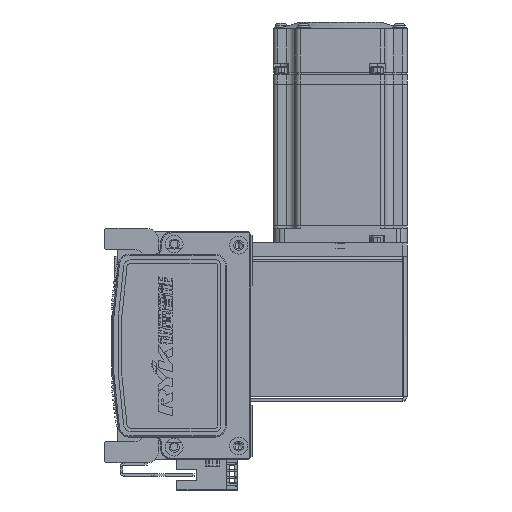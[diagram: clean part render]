
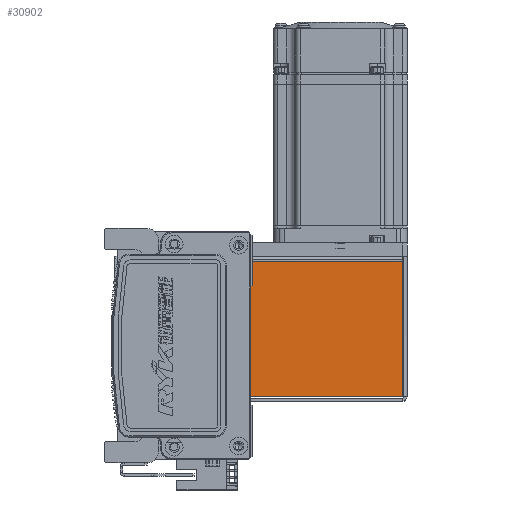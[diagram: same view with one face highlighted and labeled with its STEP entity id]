
A CAD part, left-side view. The second image highlights one B-rep face of the part: STEP entity #30902.
In plain terms, the highlighted planar face has unit normal (-1, 0, 0) as drawn and (0, 0, 1) by its records, which use the part's own axes.
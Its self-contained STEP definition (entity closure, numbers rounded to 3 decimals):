
#4406 = CARTESIAN_POINT ( 'NONE',  ( -30.293, 0., 35. ) ) ;
#4459 = LINE ( 'NONE', #6520, #70286 ) ;
#5746 = DIRECTION ( 'NONE',  ( 0., 1., 0. ) ) ;
#6490 = CARTESIAN_POINT ( 'NONE',  ( 30.263, 0.737, 35. ) ) ;
#6520 = CARTESIAN_POINT ( 'NONE',  ( 30.263, 0.737, 35. ) ) ;
#6871 = PLANE ( 'NONE',  #51274 ) ;
#6982 = LINE ( 'NONE', #45454, #56359 ) ;
#7370 = CARTESIAN_POINT ( 'NONE',  ( 0., 72.5, 35. ) ) ;
#9756 = VERTEX_POINT ( 'NONE', #6490 ) ;
#17952 = CARTESIAN_POINT ( 'NONE',  ( -30.293, 0.737, 35. ) ) ;
#20022 = FACE_OUTER_BOUND ( 'NONE', #54948, .T. ) ;
#21016 = EDGE_CURVE ( 'NONE', #9756, #70790, #6982, .T. ) ;
#28380 = ORIENTED_EDGE ( 'NONE', *, *, #35471, .T. ) ;
#30356 = DIRECTION ( 'NONE',  ( -1., 0., 0. ) ) ;
#30500 = VECTOR ( 'NONE', #39916, 1000. ) ;
#30902 = ADVANCED_FACE ( 'NONE', ( #20022 ), #6871, .F. ) ;
#30996 = LINE ( 'NONE', #7370, #64818 ) ;
#35471 = EDGE_CURVE ( 'NONE', #54973, #37487, #30996, .T. ) ;
#35642 = CARTESIAN_POINT ( 'NONE',  ( 30.263, 72.5, 35. ) ) ;
#37487 = VERTEX_POINT ( 'NONE', #39055 ) ;
#39055 = CARTESIAN_POINT ( 'NONE',  ( -30.293, 72.5, 35. ) ) ;
#39479 = EDGE_CURVE ( 'NONE', #70790, #37487, #63447, .T. ) ;
#39916 = DIRECTION ( 'NONE',  ( 0., 1., 0. ) ) ;
#41894 = DIRECTION ( 'NONE',  ( -1., 0., 0. ) ) ;
#42379 = DIRECTION ( 'NONE',  ( 0., 0., -1. ) ) ;
#43225 = ORIENTED_EDGE ( 'NONE', *, *, #39479, .F. ) ;
#44180 = ORIENTED_EDGE ( 'NONE', *, *, #55096, .T. ) ;
#45454 = CARTESIAN_POINT ( 'NONE',  ( -32.5, 0.737, 35. ) ) ;
#51274 = AXIS2_PLACEMENT_3D ( 'NONE', #59259, #42379, #30356 ) ;
#54948 = EDGE_LOOP ( 'NONE', ( #44180, #28380, #43225, #75814 ) ) ;
#54973 = VERTEX_POINT ( 'NONE', #35642 ) ;
#55096 = EDGE_CURVE ( 'NONE', #9756, #54973, #4459, .T. ) ;
#56359 = VECTOR ( 'NONE', #74802, 1000. ) ;
#59259 = CARTESIAN_POINT ( 'NONE',  ( 0., 0., 35. ) ) ;
#63447 = LINE ( 'NONE', #4406, #30500 ) ;
#64818 = VECTOR ( 'NONE', #41894, 1000. ) ;
#70286 = VECTOR ( 'NONE', #5746, 1000. ) ;
#70790 = VERTEX_POINT ( 'NONE', #17952 ) ;
#74802 = DIRECTION ( 'NONE',  ( -1., 0., 0. ) ) ;
#75814 = ORIENTED_EDGE ( 'NONE', *, *, #21016, .F. ) ;
